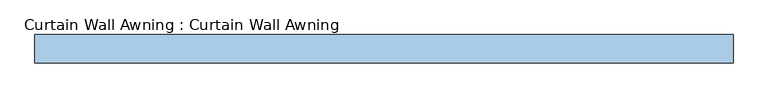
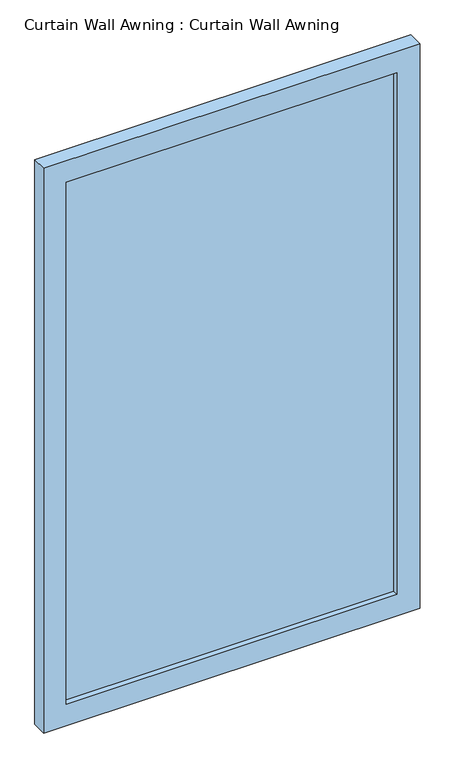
"""IFC4 building model written with IfcOpenShell, lengths in millimetres: window geometry, Curtain Wall Awning : Curtain Wall Awning."""

from ifc_helpers import new_model, si_unit, frame, origin, place, context, project, spatial, polyline, outline, extrude, source, transform, mapped, element, save


def curtain_wall_awning_curtain_wall_awning_dec480bf(model_context):
    return source(origin(), model_context, "Body", "SweptSolid", [
        extrude(outline(polyline([(554.2134152, 44.45), (-554.2134152, 44.45), (-554.2134152, 57.15), (554.2134152, 57.15), (554.2134152, 44.45)])), frame((0.0, 0.0, 76.2), z_axis=(0.0, 0.0, 1.0), x_axis=(1.0, 0.0, 0.0)), (0.0, 0.0, 1.0), 1847.6),
        extrude(outline(polyline([(2000.0, -630.4134152), (0.0, -630.4134152), (0.0, 630.4134152), (2000.0, 630.4134152), (2000.0, -630.4134152)]), holes=[polyline([(1923.8, -554.2134152), (1923.8, 554.2134152), (76.2, 554.2134152), (76.2, -554.2134152), (1923.8, -554.2134152)])]), frame((0.0, 25.4, 0.0), z_axis=(0.0, 1.0, 0.0), x_axis=(0.0, 0.0, 1.0)), (0.0, 0.0, 1.0), 50.8),
    ])


if __name__ == "__main__":
    model = new_model("IFC4")
    model_context = context("Model", 3, world=origin())
    ifc_project = project(units=[si_unit("LENGTHUNIT", "METRE", prefix="MILLI")], contexts=[model_context])
    site = spatial("IfcSite", under=ifc_project)
    building = spatial("IfcBuilding", under=site)
    placement = place(None, origin())
    curtain_wall_awning_curtain_wall_awning_shape = curtain_wall_awning_curtain_wall_awning_dec480bf(model_context)
    element("IfcWindow", 1, ObjectType="Curtain Wall Awning : Curtain Wall Awning", at=placement, inside=building, context=model_context, shape_type="MappedRepresentation", body=[
        mapped(curtain_wall_awning_curtain_wall_awning_shape, transform((0.0, 0.0, 0.0), x_axis=(1.0, 0.0, 0.0), y_axis=(0.0, 1.0, 0.0), z_axis=(0.0, 0.0, 1.0))),
    ])
    save(model, "model.ifc")
